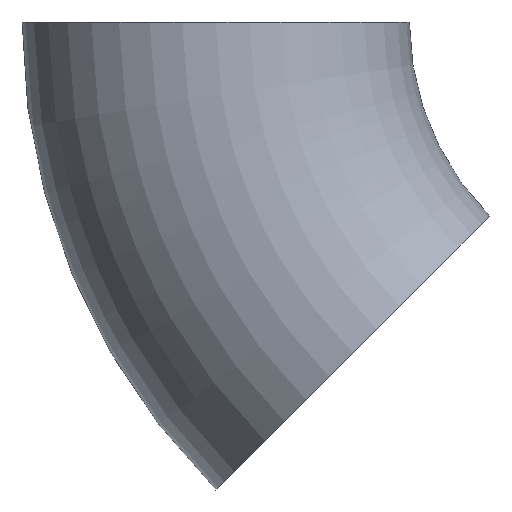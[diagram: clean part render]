
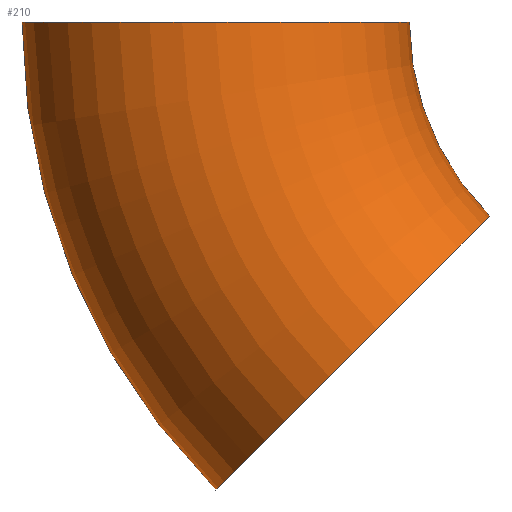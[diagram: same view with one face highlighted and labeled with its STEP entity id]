
A CAD part, front view. The second image highlights one B-rep face of the part: STEP entity #210.
In plain terms, the highlighted toroidal (fillet/blend) face has major radius 92 mm and minor radius 38.05 mm.
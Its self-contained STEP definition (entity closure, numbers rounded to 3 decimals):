
#1 = CARTESIAN_POINT ( 'NONE',  ( 0., 0., 0. ) ) ;
#3 = CARTESIAN_POINT ( 'NONE',  ( -38.148, 0., -38.148 ) ) ;
#16 = ORIENTED_EDGE ( 'NONE', *, *, #221, .F. ) ;
#18 = DIRECTION ( 'NONE',  ( 0.707, 0., 0.707 ) ) ;
#20 = DIRECTION ( 'NONE',  ( 0., 0., 1. ) ) ;
#22 = CARTESIAN_POINT ( 'NONE',  ( -91.959, 0., -91.959 ) ) ;
#31 = TOROIDAL_SURFACE ( 'NONE', #224, 92., 38.05 ) ;
#52 = ORIENTED_EDGE ( 'NONE', *, *, #205, .T. ) ;
#57 = DIRECTION ( 'NONE',  ( -0.707, 0., 0.707 ) ) ;
#60 = DIRECTION ( 'NONE',  ( 0., 0., 1. ) ) ;
#73 = ORIENTED_EDGE ( 'NONE', *, *, #187, .F. ) ;
#79 = CIRCLE ( 'NONE', #108, 130.05 ) ;
#80 = CARTESIAN_POINT ( 'NONE',  ( 0., 0., 0. ) ) ;
#81 = EDGE_CURVE ( 'NONE', #124, #146, #190, .T. ) ;
#83 = DIRECTION ( 'NONE',  ( 1., 0., 0. ) ) ;
#94 = VERTEX_POINT ( 'NONE', #189 ) ;
#108 = AXIS2_PLACEMENT_3D ( 'NONE', #80, #129, #156 ) ;
#112 = AXIS2_PLACEMENT_3D ( 'NONE', #153, #195, #83 ) ;
#117 = DIRECTION ( 'NONE',  ( 0., 1., 0. ) ) ;
#124 = VERTEX_POINT ( 'NONE', #22 ) ;
#126 = CARTESIAN_POINT ( 'NONE',  ( -65.054, 0., -65.054 ) ) ;
#129 = DIRECTION ( 'NONE',  ( 0., 1., 0. ) ) ;
#134 = FACE_OUTER_BOUND ( 'NONE', #165, .T. ) ;
#140 = AXIS2_PLACEMENT_3D ( 'NONE', #126, #57, #18 ) ;
#143 = CIRCLE ( 'NONE', #217, 53.95 ) ;
#146 = VERTEX_POINT ( 'NONE', #3 ) ;
#153 = CARTESIAN_POINT ( 'NONE',  ( -92., 0., 0. ) ) ;
#155 = CIRCLE ( 'NONE', #112, 38.05 ) ;
#156 = DIRECTION ( 'NONE',  ( 0., 0., 1. ) ) ;
#165 = EDGE_LOOP ( 'NONE', ( #73, #167, #52, #16 ) ) ;
#167 = ORIENTED_EDGE ( 'NONE', *, *, #81, .T. ) ;
#170 = VERTEX_POINT ( 'NONE', #209 ) ;
#187 = EDGE_CURVE ( 'NONE', #124, #170, #79, .T. ) ;
#189 = CARTESIAN_POINT ( 'NONE',  ( -53.95, 0., 0. ) ) ;
#190 = CIRCLE ( 'NONE', #140, 38.05 ) ;
#195 = DIRECTION ( 'NONE',  ( 0., 0., 1. ) ) ;
#205 = EDGE_CURVE ( 'NONE', #146, #94, #143, .T. ) ;
#208 = CARTESIAN_POINT ( 'NONE',  ( 0., 0., 0. ) ) ;
#209 = CARTESIAN_POINT ( 'NONE',  ( -130.05, 0., 0. ) ) ;
#210 = ADVANCED_FACE ( 'NONE', ( #134 ), #31, .T. ) ;
#217 = AXIS2_PLACEMENT_3D ( 'NONE', #1, #230, #60 ) ;
#221 = EDGE_CURVE ( 'NONE', #170, #94, #155, .T. ) ;
#224 = AXIS2_PLACEMENT_3D ( 'NONE', #208, #117, #20 ) ;
#230 = DIRECTION ( 'NONE',  ( 0., 1., 0. ) ) ;
